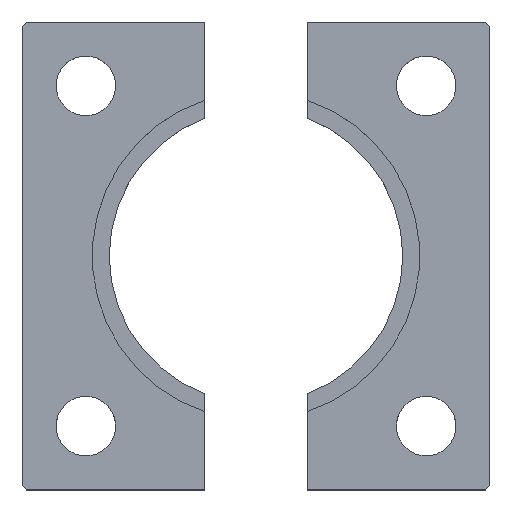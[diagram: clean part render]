
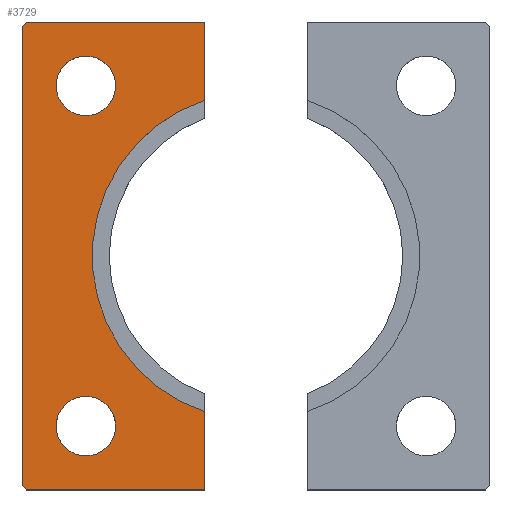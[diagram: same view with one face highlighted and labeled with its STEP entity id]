
A CAD part, top view. The second image highlights one B-rep face of the part: STEP entity #3729.
In plain terms, the highlighted planar face has unit normal (0, 0, 1).
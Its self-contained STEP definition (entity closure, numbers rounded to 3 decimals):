
#29=CIRCLE('',#3857,19.25);
#31=CIRCLE('',#3861,3.5);
#32=CIRCLE('',#3862,3.5);
#59=FACE_BOUND('',#558,.T.);
#60=FACE_BOUND('',#559,.T.);
#142=PLANE('',#3860);
#337=FACE_OUTER_BOUND('',#557,.T.);
#557=EDGE_LOOP('',(#3321,#3322,#3323,#3324,#3325,#3326,#3327,#3328));
#558=EDGE_LOOP('',(#3329));
#559=EDGE_LOOP('',(#3330));
#878=LINE('',#6748,#1212);
#879=LINE('',#6750,#1213);
#880=LINE('',#6752,#1214);
#881=LINE('',#6754,#1215);
#882=LINE('',#6756,#1216);
#883=LINE('',#6758,#1217);
#884=LINE('',#6759,#1218);
#1212=VECTOR('',#4357,10.);
#1213=VECTOR('',#4358,10.);
#1214=VECTOR('',#4359,10.);
#1215=VECTOR('',#4360,10.);
#1216=VECTOR('',#4361,10.);
#1217=VECTOR('',#4362,10.);
#1218=VECTOR('',#4363,10.);
#1780=VERTEX_POINT('',#6733);
#1782=VERTEX_POINT('',#6737);
#1785=VERTEX_POINT('',#6747);
#1786=VERTEX_POINT('',#6749);
#1787=VERTEX_POINT('',#6751);
#1788=VERTEX_POINT('',#6753);
#1789=VERTEX_POINT('',#6755);
#1790=VERTEX_POINT('',#6757);
#1791=VERTEX_POINT('',#6760);
#1792=VERTEX_POINT('',#6762);
#2304=EDGE_CURVE('',#1780,#1782,#29,.T.);
#2308=EDGE_CURVE('',#1785,#1782,#878,.T.);
#2309=EDGE_CURVE('',#1786,#1785,#879,.T.);
#2310=EDGE_CURVE('',#1787,#1786,#880,.T.);
#2311=EDGE_CURVE('',#1788,#1787,#881,.T.);
#2312=EDGE_CURVE('',#1789,#1788,#882,.T.);
#2313=EDGE_CURVE('',#1790,#1789,#883,.T.);
#2314=EDGE_CURVE('',#1780,#1790,#884,.T.);
#2315=EDGE_CURVE('',#1791,#1791,#31,.T.);
#2316=EDGE_CURVE('',#1792,#1792,#32,.T.);
#3321=ORIENTED_EDGE('',*,*,#2304,.T.);
#3322=ORIENTED_EDGE('',*,*,#2308,.F.);
#3323=ORIENTED_EDGE('',*,*,#2309,.F.);
#3324=ORIENTED_EDGE('',*,*,#2310,.F.);
#3325=ORIENTED_EDGE('',*,*,#2311,.F.);
#3326=ORIENTED_EDGE('',*,*,#2312,.F.);
#3327=ORIENTED_EDGE('',*,*,#2313,.F.);
#3328=ORIENTED_EDGE('',*,*,#2314,.F.);
#3329=ORIENTED_EDGE('',*,*,#2315,.T.);
#3330=ORIENTED_EDGE('',*,*,#2316,.T.);
#3729=ADVANCED_FACE('',(#337,#59,#60),#142,.T.);
#3857=AXIS2_PLACEMENT_3D('',#6739,#4347,#4348);
#3860=AXIS2_PLACEMENT_3D('',#6746,#4355,#4356);
#3861=AXIS2_PLACEMENT_3D('',#6761,#4364,#4365);
#3862=AXIS2_PLACEMENT_3D('',#6763,#4366,#4367);
#4347=DIRECTION('center_axis',(0.,0.,-1.));
#4348=DIRECTION('ref_axis',(-1.,0.,0.));
#4355=DIRECTION('center_axis',(0.,0.,1.));
#4356=DIRECTION('ref_axis',(1.,0.,0.));
#4357=DIRECTION('',(0.,-1.,0.));
#4358=DIRECTION('',(1.,0.,0.));
#4359=DIRECTION('',(0.707,0.707,0.));
#4360=DIRECTION('',(0.,1.,0.));
#4361=DIRECTION('',(-0.707,0.707,0.));
#4362=DIRECTION('',(-1.,0.,0.));
#4363=DIRECTION('',(0.,-1.,0.));
#4364=DIRECTION('center_axis',(0.,0.,-1.));
#4365=DIRECTION('ref_axis',(-1.,0.,0.));
#4366=DIRECTION('center_axis',(0.,0.,-1.));
#4367=DIRECTION('ref_axis',(-1.,0.,0.));
#6733=CARTESIAN_POINT('',(-6.,-18.291,7.));
#6737=CARTESIAN_POINT('',(-6.,18.291,7.));
#6739=CARTESIAN_POINT('Origin',(0.,0.,7.));
#6746=CARTESIAN_POINT('Origin',(-16.708,0.,
7.));
#6747=CARTESIAN_POINT('',(-6.,27.5,7.));
#6748=CARTESIAN_POINT('',(-6.,-27.5,7.));
#6749=CARTESIAN_POINT('',(-27.,27.5,7.));
#6750=CARTESIAN_POINT('',(-6.,27.5,7.));
#6751=CARTESIAN_POINT('',(-27.5,27.,7.));
#6752=CARTESIAN_POINT('',(-27.,27.5,7.));
#6753=CARTESIAN_POINT('',(-27.5,-27.,7.));
#6754=CARTESIAN_POINT('',(-27.5,27.,7.));
#6755=CARTESIAN_POINT('',(-27.,-27.5,7.));
#6756=CARTESIAN_POINT('',(-27.5,-27.,7.));
#6757=CARTESIAN_POINT('',(-6.,-27.5,7.));
#6758=CARTESIAN_POINT('',(-27.,-27.5,7.));
#6759=CARTESIAN_POINT('',(-6.,-27.5,7.));
#6760=CARTESIAN_POINT('',(-16.5,20.,7.));
#6761=CARTESIAN_POINT('Origin',(-20.,20.,7.));
#6762=CARTESIAN_POINT('',(-16.5,-20.,7.));
#6763=CARTESIAN_POINT('Origin',(-20.,-20.,7.));
